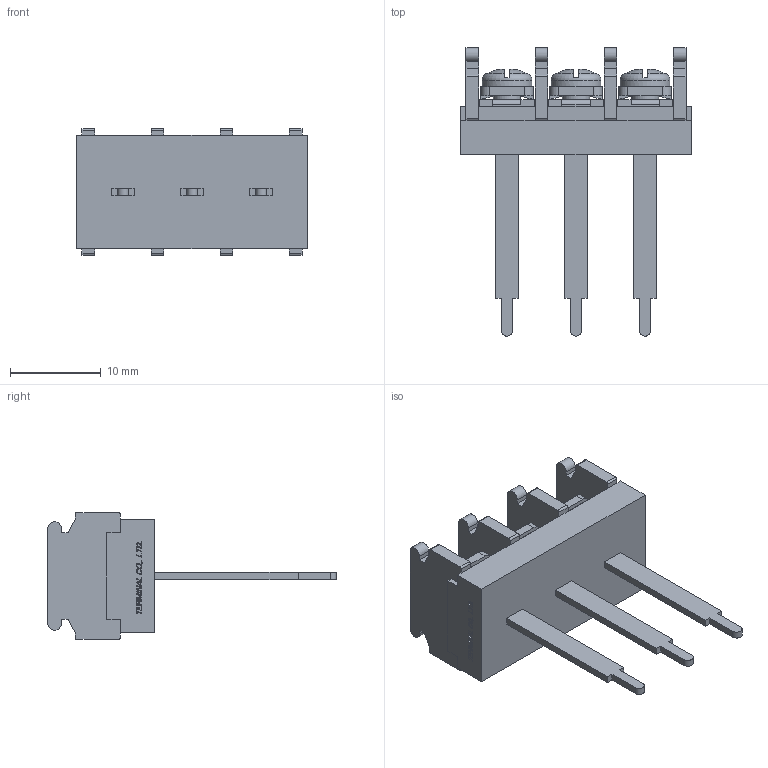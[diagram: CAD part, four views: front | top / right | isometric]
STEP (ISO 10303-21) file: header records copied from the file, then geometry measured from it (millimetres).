
FILE_DESCRIPTION(/* description */ ('Alibre Inc.'),/* implementation_level */ '2;1');
FILE_NAME(/* name */ 'export0',/* time_stamp */ '2015-10-26T16:04:07+09:00',/* author */ (''),/* organization */ (''),/* preprocessor_version */ 'ST-DEVELOPER v14',/* originating_system */ 'Alibre',/* authorisation */ '');
FILE_SCHEMA (('CONFIG_CONTROL_DESIGN'));
Length unit declared in the file: centimetre
Products named in the file (1): ID_1
Bounding box: 25.48 x 31.8 x 14 mm (x, y, z)
Volume: 2531.7 mm3; surface area: 2752.2 mm2
Topology: 1 solids, 1 shells, 750 faces, 2042 edges, 1346 vertices
Faces by surface type: plane 571, bspline 104, cylinder 51, cone 12, torus 6, sphere 6
Full cylindrical faces by diameter (mm): 3 x3, 5.5 x3
Entity records: 22657 total; most frequent: CARTESIAN_POINT 5154, ORIENTED_EDGE 4048, DIRECTION 2609, EDGE_CURVE 2024, VECTOR 1528, LINE 1528, VERTEX_POINT 1340, EDGE_LOOP 814
